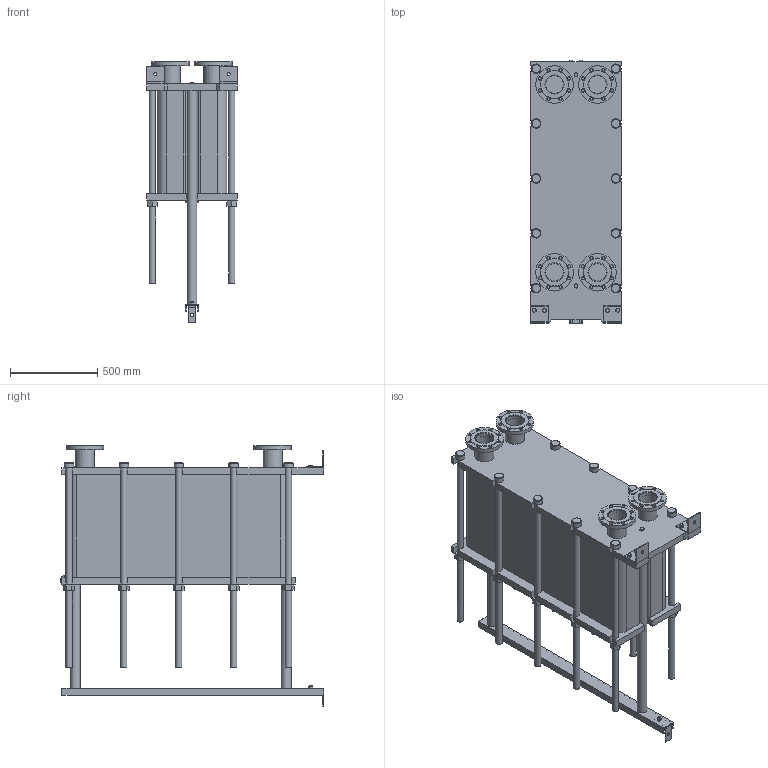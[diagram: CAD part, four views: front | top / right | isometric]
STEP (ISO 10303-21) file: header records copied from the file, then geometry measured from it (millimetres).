
FILE_DESCRIPTION(/* description */ (''),/* implementation_level */ '2;1');
FILE_NAME(/* name */ 'C:\Users\zhuro\Desktop\ENCO\TO\ЭН-04\ЭН-0,5-04-170-1.stp',/* time_stamp */ '2022-06-06T11:00:11+03:00',/* author */ ('zhuro'),/* organization */ (''),/* preprocessor_version */ 'ST-DEVELOPER v18.1',/* originating_system */ 'Autodesk Inventor 2022',/* authorisation */ '');
FILE_SCHEMA (('AUTOMOTIVE_DESIGN { 1 0 10303 214 3 1 1 }'));
Length unit declared in the file: millimetre
Products named in the file (1): ЭН-0,5-04-170-1
Bounding box: 520 x 1510 x 1500 mm (x, y, z)
Volume: 368080994.3 mm3; surface area: 9894568.6 mm2
Topology: 45 solids, 45 shells, 668 faces, 1611 edges, 1048 vertices
Faces by surface type: plane 457, cylinder 166, cone 39, torus 6
Full cylindrical faces by diameter (mm): 8 x4, 10 x2, 16 x8, 18 x35, 36 x25, 40 x2, 42 x1, 45 x4, 54 x10, 57 x2, 60 x10, 68 x2, 100 x4, 110 x8, 215 x4
Entity records: 23607 total; most frequent: CARTESIAN_POINT 7348, DIRECTION 3371, ORIENTED_EDGE 3142, EDGE_CURVE 1571, AXIS2_PLACEMENT_3D 1199, VERTEX_POINT 1044, LINE 973, VECTOR 973
